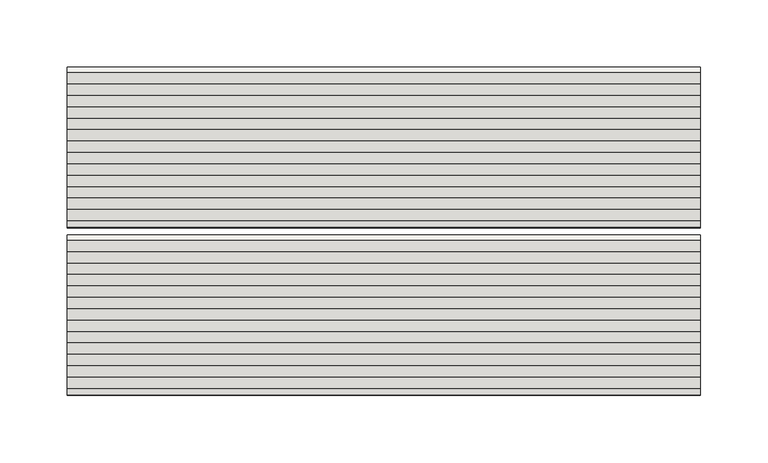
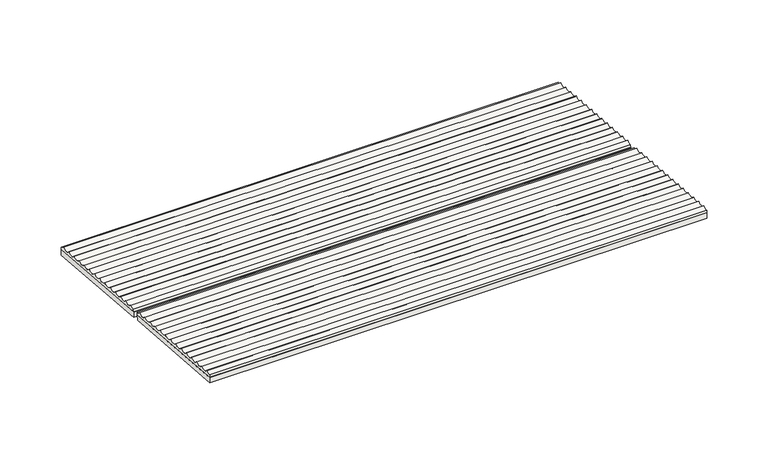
"""IFC4 building model written with IfcOpenShell, lengths in millimetres: slab geometry, ROSA GRES_001 (2 filas) : Piezas 001_Aqua_Blanco_Anti-Slip."""

from ifc_helpers import new_model, si_unit, point, frame, frame_2d, origin, place, context, project, spatial, polyline, circle_curve, trimmed, segment, composite_curve, outline, extrude, source, transform, mapped, element, save


def slab_b96cdf43(model_context):
    return source(origin(), model_context, "Body", "SweptSolid", [
        extrude(outline(polyline([(59.4997999, 0.0), (59.4997999, -469.9734114), (-59.4998, -469.9734114), (-59.4998, 0.0), (59.4997999, 0.0)])), frame((469.9734114, -183.3614376, 204.5238637), z_axis=(0.0, 0.08112705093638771, 0.9967037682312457), x_axis=(0.0, -0.9967037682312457, 0.08112705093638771)), (0.0, 0.0, 1.0), 5.0),
        extrude(outline(polyline([(59.4998, 0.0), (59.4998, -469.9734114), (-59.4997999, -469.9734114), (-59.4997999, 0.0), (59.4998, 0.0)])), frame((469.9734114, -307.9490099, 214.6647126), z_axis=(0.0, 0.08112705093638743, 0.9967037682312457), x_axis=(0.0, -0.9967037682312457, 0.08112705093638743)), (0.0, 0.0, 1.0), 5.0),
        extrude(outline(composite_curve([segment(polyline([(-242.2594772, 214.3344258), (-242.046278, 216.9537305)]), True, "CONTINUOUS"), segment(trimmed(circle_curve(frame_2d((-241.5926747, 222.5265709)), 5.5912705), [point((-242.046278, 216.9537305))], [point((-237.6514463, 218.5605875))], True, "CARTESIAN"), True, "CONTINUOUS"), segment(trimmed(circle_curve(frame_2d((-233.1207211, 221.8369933)), 5.5912705), [point((-237.6514463, 218.5605875))], [point((-229.1794928, 217.8710099))], True, "CARTESIAN"), True, "CONTINUOUS"), segment(trimmed(circle_curve(frame_2d((-224.6487676, 221.1474157)), 5.5912705), [point((-229.1794928, 217.8710099))], [point((-220.7075392, 217.1814322))], True, "CARTESIAN"), True, "CONTINUOUS"), segment(trimmed(circle_curve(frame_2d((-216.176814, 220.457838)), 5.5912705), [point((-220.7075392, 217.1814322))], [point((-212.2355856, 216.4918546))], True, "CARTESIAN"), True, "CONTINUOUS"), segment(trimmed(circle_curve(frame_2d((-207.7048605, 219.7682604)), 5.5912705), [point((-212.2355856, 216.4918546))], [point((-203.7636321, 215.802277))], True, "CARTESIAN"), True, "CONTINUOUS"), segment(trimmed(circle_curve(frame_2d((-199.2329069, 219.0786828)), 5.5912705), [point((-203.7636321, 215.802277))], [point((-195.2916785, 215.1126994))], True, "CARTESIAN"), True, "CONTINUOUS"), segment(trimmed(circle_curve(frame_2d((-190.7609534, 218.3891052)), 5.5912705), [point((-195.2916785, 215.1126994))], [point((-186.819725, 214.4231218))], True, "CARTESIAN"), True, "CONTINUOUS"), segment(trimmed(circle_curve(frame_2d((-182.2889998, 217.6995276)), 5.5912705), [point((-186.819725, 214.4231218))], [point((-178.3477714, 213.7335442))], True, "CARTESIAN"), True, "CONTINUOUS"), segment(trimmed(circle_curve(frame_2d((-173.8170463, 217.00995)), 5.5912705), [point((-178.3477714, 213.7335442))], [point((-169.8758179, 213.0439666))], True, "CARTESIAN"), True, "CONTINUOUS"), segment(trimmed(circle_curve(frame_2d((-165.3450927, 216.3203723)), 5.5912705), [point((-169.8758179, 213.0439666))], [point((-161.4038643, 212.3543889))], True, "CARTESIAN"), True, "CONTINUOUS"), segment(trimmed(circle_curve(frame_2d((-156.8731392, 215.6307947)), 5.5912705), [point((-161.4038643, 212.3543889))], [point((-152.9319108, 211.6648113))], True, "CARTESIAN"), True, "CONTINUOUS"), segment(trimmed(circle_curve(frame_2d((-148.4011856, 214.9412171)), 5.5912705), [point((-152.9319108, 211.6648113))], [point((-144.4599572, 210.9752337))], True, "CARTESIAN"), True, "CONTINUOUS"), segment(trimmed(circle_curve(frame_2d((-139.929232, 214.2516395)), 5.5912705), [point((-144.4599572, 210.9752337))], [point((-135.9880037, 210.2856561))], True, "CARTESIAN"), True, "CONTINUOUS"), segment(trimmed(circle_curve(frame_2d((-131.4572785, 213.5620619)), 5.5912705), [point((-135.9880037, 210.2856561))], [point((-127.5160501, 209.5960785))], True, "CARTESIAN"), True, "CONTINUOUS"), segment(trimmed(circle_curve(frame_2d((-122.9853249, 212.8724843)), 5.5912705), [point((-127.5160501, 209.5960785))], [point((-123.4389282, 207.2996439))], True, "CARTESIAN"), True, "CONTINUOUS"), segment(polyline([(-123.4389282, 207.2996439), (-123.6521274, 204.6803392), (-242.2594772, 214.3344258)]), True, "CONTINUOUS")], self_intersect=False)), frame((0.0, 0.0, 0.0), z_axis=(1.0, 0.0, 0.0), x_axis=(0.0, 1.0, 0.0)), (0.0, 0.0, 1.0), 469.9734114),
        extrude(outline(composite_curve([segment(polyline([(-366.8470495, 224.4752747), (-366.6338503, 227.0945794)]), True, "CONTINUOUS"), segment(trimmed(circle_curve(frame_2d((-366.180247, 232.6674198)), 5.5912705), [point((-366.6338503, 227.0945794))], [point((-362.2390187, 228.7014364))], True, "CARTESIAN"), True, "CONTINUOUS"), segment(trimmed(circle_curve(frame_2d((-357.7082935, 231.9778422)), 5.5912705), [point((-362.2390187, 228.7014364))], [point((-353.7670651, 228.0118588))], True, "CARTESIAN"), True, "CONTINUOUS"), segment(trimmed(circle_curve(frame_2d((-349.2363399, 231.2882646)), 5.5912705), [point((-353.7670651, 228.0118588))], [point((-345.2951115, 227.3222812))], True, "CARTESIAN"), True, "CONTINUOUS"), segment(trimmed(circle_curve(frame_2d((-340.7643864, 230.5986869)), 5.5912705), [point((-345.2951115, 227.3222812))], [point((-336.823158, 226.6327035))], True, "CARTESIAN"), True, "CONTINUOUS"), segment(trimmed(circle_curve(frame_2d((-332.2924328, 229.9091093)), 5.5912705), [point((-336.823158, 226.6327035))], [point((-328.3512044, 225.9431259))], True, "CARTESIAN"), True, "CONTINUOUS"), segment(trimmed(circle_curve(frame_2d((-323.8204793, 229.2195317)), 5.5912705), [point((-328.3512044, 225.9431259))], [point((-319.8792509, 225.2535483))], True, "CARTESIAN"), True, "CONTINUOUS"), segment(trimmed(circle_curve(frame_2d((-315.3485257, 228.5299541)), 5.5912705), [point((-319.8792509, 225.2535483))], [point((-311.4072973, 224.5639707))], True, "CARTESIAN"), True, "CONTINUOUS"), segment(trimmed(circle_curve(frame_2d((-306.8765722, 227.8403765)), 5.5912705), [point((-311.4072973, 224.5639707))], [point((-302.9353438, 223.8743931))], True, "CARTESIAN"), True, "CONTINUOUS"), segment(trimmed(circle_curve(frame_2d((-298.4046186, 227.1507989)), 5.5912705), [point((-302.9353438, 223.8743931))], [point((-294.4633902, 223.1848155))], True, "CARTESIAN"), True, "CONTINUOUS"), segment(trimmed(circle_curve(frame_2d((-289.9326651, 226.4612213)), 5.5912705), [point((-294.4633902, 223.1848155))], [point((-285.9914367, 222.4952379))], True, "CARTESIAN"), True, "CONTINUOUS"), segment(trimmed(circle_curve(frame_2d((-281.4607115, 225.7716436)), 5.5912705), [point((-285.9914367, 222.4952379))], [point((-277.5194831, 221.8056602))], True, "CARTESIAN"), True, "CONTINUOUS"), segment(trimmed(circle_curve(frame_2d((-272.9887579, 225.082066)), 5.5912705), [point((-277.5194831, 221.8056602))], [point((-269.0475296, 221.1160826))], True, "CARTESIAN"), True, "CONTINUOUS"), segment(trimmed(circle_curve(frame_2d((-264.5168044, 224.3924884)), 5.5912705), [point((-269.0475296, 221.1160826))], [point((-260.575576, 220.426505))], True, "CARTESIAN"), True, "CONTINUOUS"), segment(trimmed(circle_curve(frame_2d((-256.0448508, 223.7029108)), 5.5912705), [point((-260.575576, 220.426505))], [point((-252.1036225, 219.7369274))], True, "CARTESIAN"), True, "CONTINUOUS"), segment(trimmed(circle_curve(frame_2d((-247.5728973, 223.0133332)), 5.5912705), [point((-252.1036225, 219.7369274))], [point((-248.0265006, 217.4404928))], True, "CARTESIAN"), True, "CONTINUOUS"), segment(polyline([(-248.0265006, 217.4404928), (-248.2396998, 214.8211881), (-366.8470495, 224.4752747)]), True, "CONTINUOUS")], self_intersect=False)), frame((0.0, 0.0, 0.0), z_axis=(1.0, 0.0, 0.0), x_axis=(0.0, 1.0, 0.0)), (0.0, 0.0, 1.0), 469.9734114),
    ])


if __name__ == "__main__":
    model = new_model("IFC4")
    model_context = context("Model", 3, world=origin())
    ifc_project = project(units=[si_unit("LENGTHUNIT", "METRE", prefix="MILLI")], contexts=[model_context])
    site = spatial("IfcSite", under=ifc_project)
    building = spatial("IfcBuilding", under=site)
    placement = place(None, origin())
    slab_shape = slab_b96cdf43(model_context)
    element("IfcSlab", 1, ObjectType="ROSA GRES_001 (2 filas) : Piezas 001_Aqua_Blanco_Anti-Slip", at=placement, inside=building, context=model_context, shape_type="MappedRepresentation", body=[
        mapped(slab_shape, transform((0.0, 0.0, 0.0), x_axis=(1.0, 0.0, 0.0), y_axis=(0.0, 1.0, 0.0), z_axis=(0.0, 0.0, 1.0))),
    ])
    save(model, "model.ifc")
